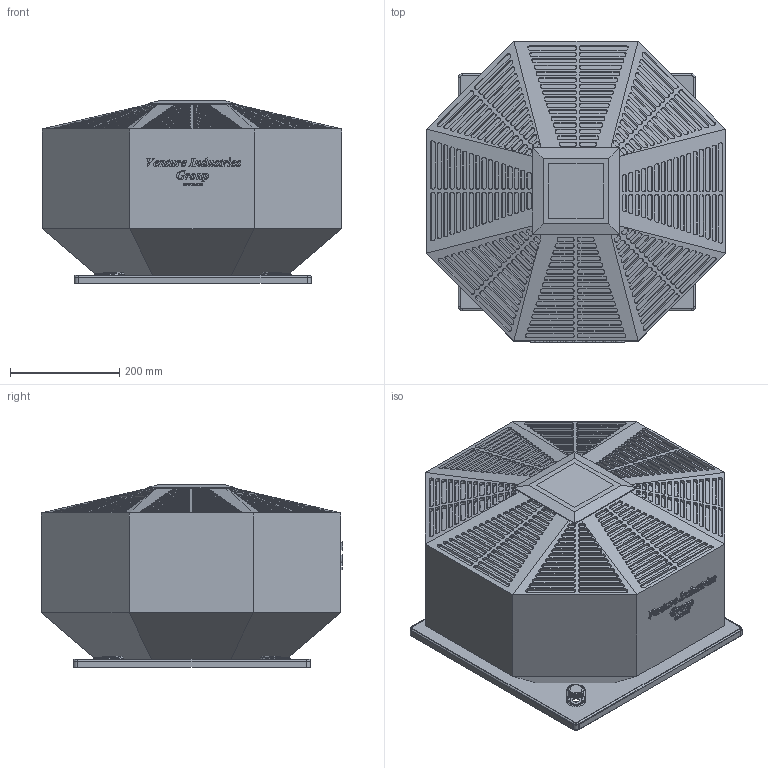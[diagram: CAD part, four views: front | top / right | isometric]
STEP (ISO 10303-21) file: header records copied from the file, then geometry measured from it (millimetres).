
FILE_DESCRIPTION(/* description */ (''),/* implementation_level */ '2;1');
FILE_NAME(/* name */ 'D:\Piotr - Dokumenty\Modele uproszczone\RFV\RFV X-315\komplet\RFV_X_315_X.stp',/* time_stamp */ '2021-03-17T12:09:16+01:00',/* author */ ('Piotr.Nowotniak'),/* organization */ (''),/* preprocessor_version */ 'ST-DEVELOPER v18',/* originating_system */ 'Autodesk Inventor 2020',/* authorisation */ '');
FILE_SCHEMA (('AUTOMOTIVE_DESIGN { 1 0 10303 214 3 1 1 }'));
Products named in the file (1): RFV_RFV_EC_X_315_X
Bounding box: 549 x 552 x 335 mm (x, y, z)
Volume: 65415741.6 mm3; surface area: 1277433 mm2
Topology: 1 solids, 1 shells, 3081 faces, 8207 edges, 5415 vertices
Faces by surface type: plane 1552, cylinder 1047, bspline 440, torus 34, cone 8
Full cylindrical faces by diameter (mm): 12 x4, 297.69 x1
Entity records: 101969 total; most frequent: CARTESIAN_POINT 25590, ORIENTED_EDGE 16414, DIRECTION 14822, EDGE_CURVE 8207, VERTEX_POINT 5415, LINE 5130, VECTOR 5130, AXIS2_PLACEMENT_3D 4846
